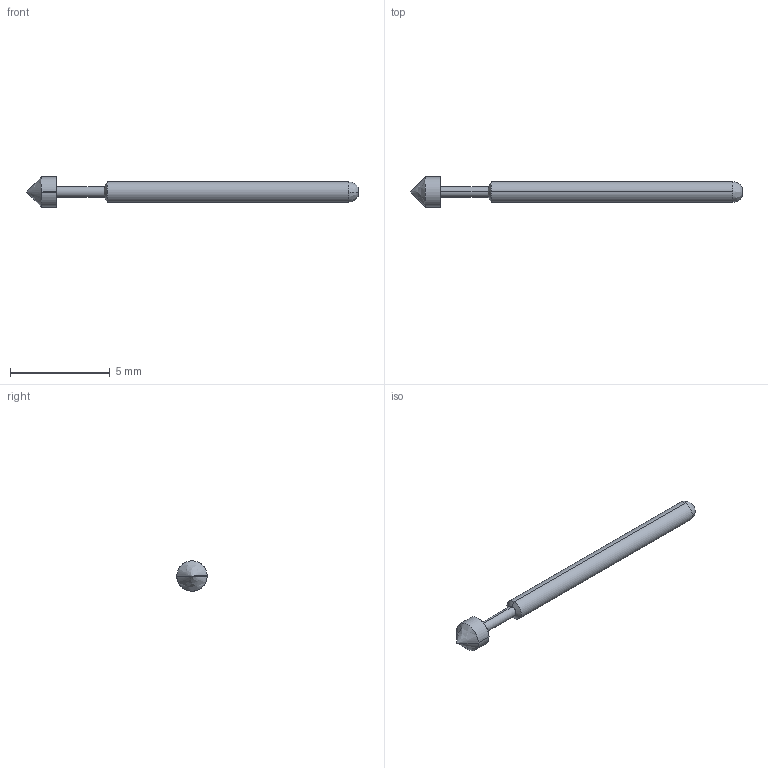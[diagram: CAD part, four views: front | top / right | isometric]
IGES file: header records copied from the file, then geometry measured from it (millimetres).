
Start section: SolidWorks IGES file using analytic representation for surfaces
Global section: file name: F:\OneDrive\Desktop\Coda\24.8\PA2 series RTP\CAD Files\PA2E.IGS; native system: SolidWorks 2021; preprocessor: SolidWorks 2021; author: Georg; date: 210825.123006; units: inch
Bounding box: 16.64 x 1.52 x 1.52 mm (x, y, z)
Surface area: 52.8 mm2 (no closed solid volume)
Topology: 0 solids, 0 shells, 14 faces, 100 edges, 98 vertices
Faces by surface type: revolution 10, bspline 4
